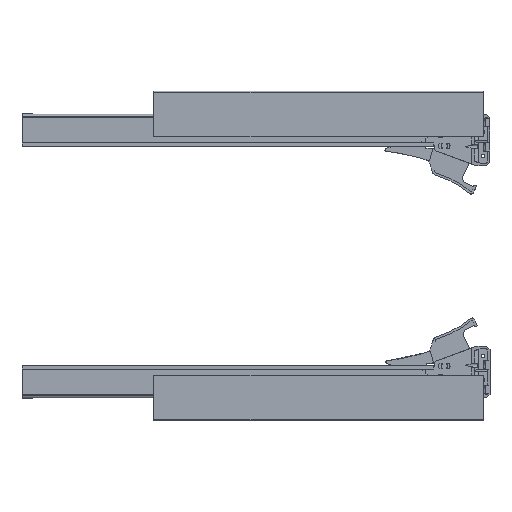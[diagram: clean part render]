
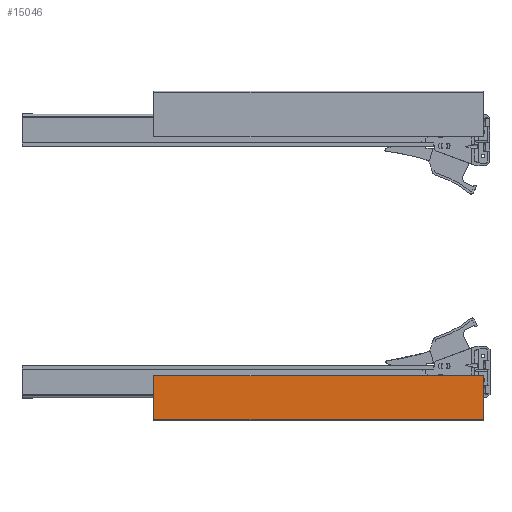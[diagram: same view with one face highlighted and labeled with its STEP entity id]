
A CAD part, front view. The second image highlights one B-rep face of the part: STEP entity #15046.
In plain terms, the highlighted planar face has unit normal (0, -1, 0).
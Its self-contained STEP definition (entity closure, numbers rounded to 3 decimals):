
#337=PLANE('',#15909);
#882=FACE_OUTER_BOUND('',#1694,.T.);
#1694=EDGE_LOOP('',(#10201,#10202,#10203,#10204));
#2681=LINE('',#21698,#4327);
#2682=LINE('',#21701,#4328);
#2683=LINE('',#21703,#4329);
#2684=LINE('',#21704,#4330);
#4327=VECTOR('',#17305,10.);
#4328=VECTOR('',#17308,10.);
#4329=VECTOR('',#17309,10.);
#4330=VECTOR('',#17310,10.);
#6485=VERTEX_POINT('',#21691);
#6488=VERTEX_POINT('',#21696);
#6489=VERTEX_POINT('',#21700);
#6490=VERTEX_POINT('',#21702);
#7983=EDGE_CURVE('',#6488,#6485,#2681,.T.);
#7984=EDGE_CURVE('',#6488,#6489,#2682,.T.);
#7985=EDGE_CURVE('',#6489,#6490,#2683,.T.);
#7986=EDGE_CURVE('',#6485,#6490,#2684,.T.);
#10201=ORIENTED_EDGE('',*,*,#7983,.F.);
#10202=ORIENTED_EDGE('',*,*,#7984,.T.);
#10203=ORIENTED_EDGE('',*,*,#7985,.T.);
#10204=ORIENTED_EDGE('',*,*,#7986,.F.);
#15046=ADVANCED_FACE('',(#882),#337,.T.);
#15909=AXIS2_PLACEMENT_3D('',#21699,#17306,#17307);
#17305=DIRECTION('',(-1.,0.,0.));
#17306=DIRECTION('center_axis',(0.,-1.,0.));
#17307=DIRECTION('ref_axis',(0.,0.,-1.));
#17308=DIRECTION('',(0.,0.,1.));
#17309=DIRECTION('',(-1.,0.,0.));
#17310=DIRECTION('',(0.,0.,1.));
#21691=CARTESIAN_POINT('',(-17.839,-146.183,1.));
#21696=CARTESIAN_POINT('',(282.161,-146.183,1.));
#21698=CARTESIAN_POINT('',(207.161,-146.183,1.));
#21699=CARTESIAN_POINT('Origin',(282.161,-146.183,0.));
#21700=CARTESIAN_POINT('',(282.161,-146.183,41.));
#21701=CARTESIAN_POINT('',(282.161,-146.183,0.));
#21702=CARTESIAN_POINT('',(-17.839,-146.183,41.));
#21703=CARTESIAN_POINT('',(-17.839,-146.183,41.));
#21704=CARTESIAN_POINT('',(-17.839,-146.183,0.));
